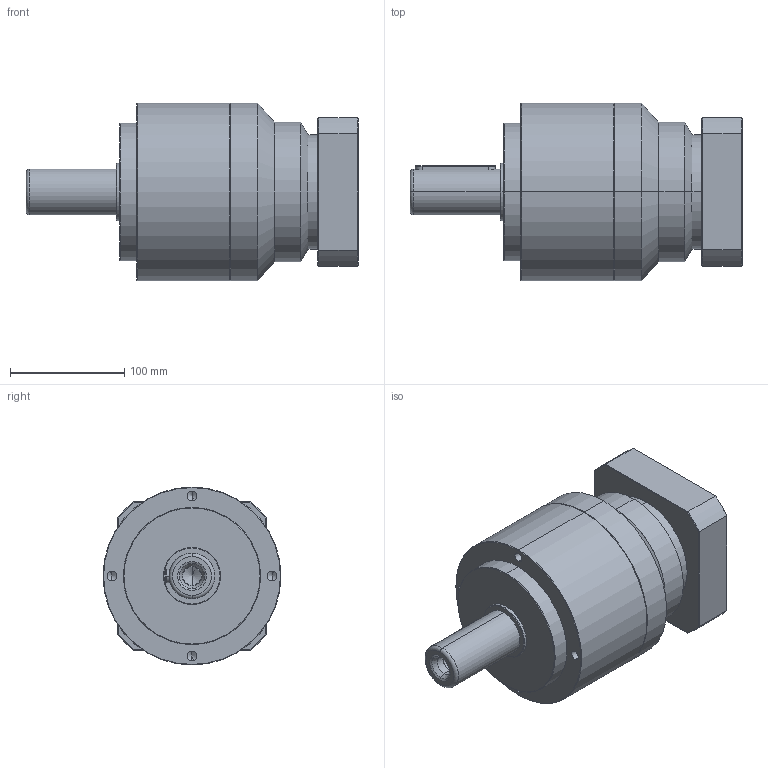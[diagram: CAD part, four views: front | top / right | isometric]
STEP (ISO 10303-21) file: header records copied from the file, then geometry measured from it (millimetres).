
FILE_DESCRIPTION (( 'STEP AP203' ), '1' );
FILE_NAME ('TCE155-L2-24-110-145-M8-69-12.STEP', '2021-02-08T05:13:10', ( '' ), ( '' ), 'SwSTEP 2.0', 'SolidWorks 2017', '' );
FILE_SCHEMA (( 'CONFIG_CONTROL_DESIGN' ));
Length unit declared in the file: millimetre
Products named in the file (1): TCE155-L2-24-110-145-M8-69-12
Bounding box: 290.2 x 155.5 x 155.5 mm (x, y, z)
Volume: 3275975.2 mm3; surface area: 190757.5 mm2
Topology: 3 solids, 3 shells, 161 faces, 353 edges, 199 vertices
Faces by surface type: cylinder 60, cone 58, plane 33, torus 10
Entity records: 4583 total; most frequent: CARTESIAN_POINT 989, DIRECTION 806, ORIENTED_EDGE 670, EDGE_CURVE 335, AXIS2_PLACEMENT_3D 332, VERTEX_POINT 199, EDGE_LOOP 184, CIRCLE 170
